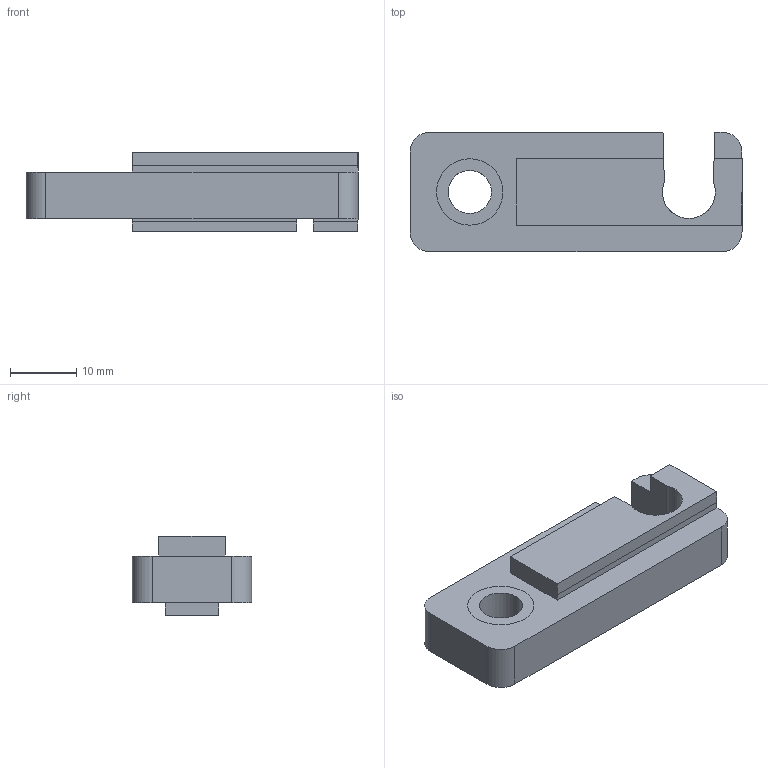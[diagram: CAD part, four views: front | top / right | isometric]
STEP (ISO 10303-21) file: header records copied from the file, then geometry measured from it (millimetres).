
FILE_DESCRIPTION (( 'STEP AP214' ), '1' );
FILE_NAME ('093200.STEP', '2014-08-22T06:17:32', ( '' ), ( '' ), 'SwSTEP 2.0', 'SolidWorks 2014', '' );
FILE_SCHEMA (( 'AUTOMOTIVE_DESIGN' ));
Length unit declared in the file: millimetre
Products named in the file (1): 093200
Bounding box: 50 x 18 x 12 mm (x, y, z)
Volume: 6622 mm3; surface area: 3243.4 mm2
Topology: 1 solids, 1 shells, 43 faces, 121 edges, 82 vertices
Faces by surface type: plane 34, cylinder 9
Entity records: 1451 total; most frequent: CARTESIAN_POINT 247, ORIENTED_EDGE 242, DIRECTION 233, EDGE_CURVE 121, LINE 97, VECTOR 97, VERTEX_POINT 82, AXIS2_PLACEMENT_3D 68
